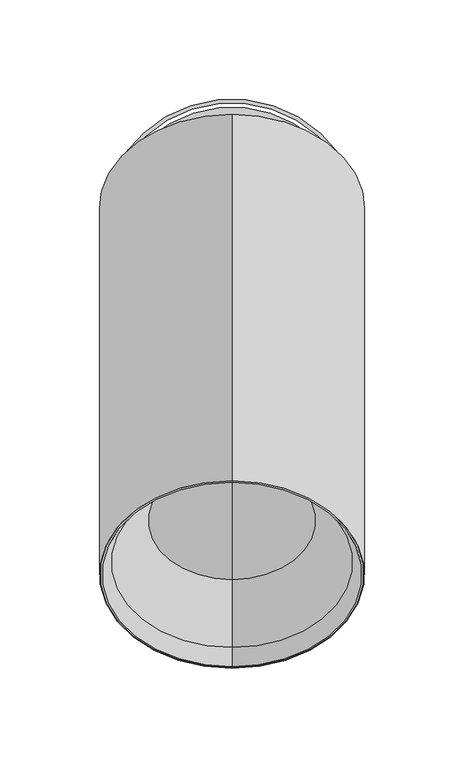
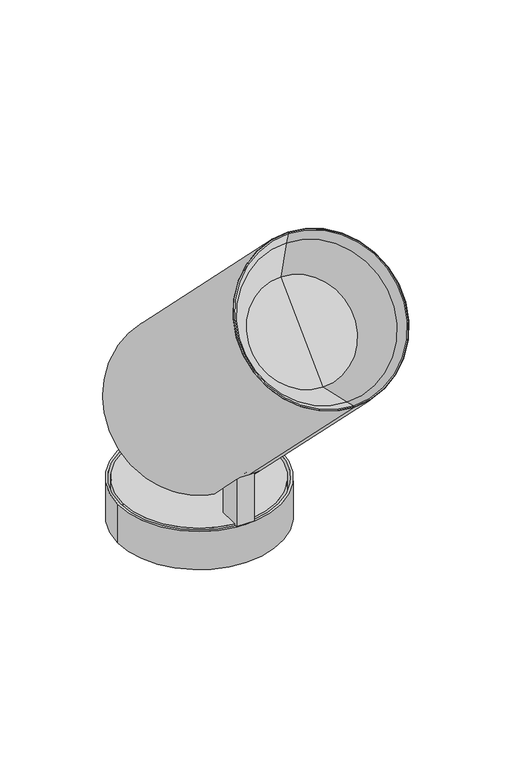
"""IFC4 building model written with IfcOpenShell, lengths in millimetres: light fixture geometry, PIPES C L : 2800 29W-830 62°."""

from ifc_helpers import new_model, si_unit, point, frame, frame_2d, origin, origin_with_axes, origin_2d, place, context, project, spatial, polyline, circle_curve, trimmed, segment, composite_curve, outline, extrude, source, transform, mapped, element, save
from ifc_brep_helpers import plane_surface, cylinder_surface, revolved_surface, advanced_brep


def light_fixture_e5662e54(model_context):
    return source(origin(), model_context, "Body", "SolidModel", [
        advanced_brep(
        [(8.0, -57.2071068, 92.8492424), (8.0, -28.9228355, 64.5649712), (8.0, -41.2985853, 52.1892214), (8.0, -33.5204107, 44.4110468), (8.0, -34.9452946, 42.9861629), (8.0, -71.0077404, 79.0486088), (-8.0, -57.2071068, 92.8492424), (-8.0, -71.0077404, 79.0486088), (-8.0, -34.9452946, 42.9861629), (-8.0, -33.5204107, 44.4110468), (-8.0, -41.2985853, 52.1892214), (-8.0, -28.9228355, 64.5649712), (0.0, -28.9228355, 64.5649712), (0.0, -71.3492424, 78.7071068), (0.0, -125.0893578, 320.5376259), (0.0, -219.1345597, 226.492424), (0.0, -208.9399527, 223.5599433), (0.0, -122.156877, 310.343019), (0.0, 58.7584053, 136.6898628), (0.0, 57.3441918, 135.2756493), (0.0, 49.5660172, 143.0538239), (0.0, 3.9576298, 97.4454365), (0.0, -114.3056476, 275.7154061), (0.0, -174.3123398, 215.7087138), (0.0, -144.3089937, 245.71206)],
        [
            (0, 1),
            (1, 2),
            (2, 3),
            (3, 4),
            (4, 5),
            (5, 0),
            (6, 7),
            (7, 8),
            (8, 9),
            (9, 10),
            (10, 11),
            (11, 6),
            (0, 6),
            (11, 12),
            (12, 1),
            (5, 13, circle_curve(frame((0.0, -24.3266415, 125.7297077), z_axis=(0.0, 0.7071067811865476, -0.7071067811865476), x_axis=(0.0, -0.7071067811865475, -0.7071067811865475)), 66.5)),
            (13, 7, circle_curve(frame((0.0, -24.3266415, 125.7297077), z_axis=(0.0, 0.7071067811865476, -0.7071067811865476), x_axis=(0.0, -0.7071067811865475, -0.7071067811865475)), 66.5)),
            (14, 15, circle_curve(frame((0.0, -172.1119587, 273.515025), z_axis=(0.0, -0.7071067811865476, 0.7071067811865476), x_axis=(0.0, -0.7071067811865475, -0.7071067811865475)), 66.5)),
            (15, 16),
            (16, 17, circle_curve(frame((0.0, -165.5484149, 266.9514811), z_axis=(0.0, 0.7071067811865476, -0.7071067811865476), x_axis=(0.0, -0.7071067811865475, -0.7071067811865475)), 61.3649013)),
            (17, 14),
            (15, 14, circle_curve(frame((0.0, -172.1119587, 273.515025), z_axis=(0.0, -0.7071067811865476, 0.7071067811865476), x_axis=(0.0, -0.7071067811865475, -0.7071067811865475)), 66.5)),
            (17, 16, circle_curve(frame((0.0, -165.5484149, 266.9514811), z_axis=(0.0, 0.7071067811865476, -0.7071067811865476), x_axis=(0.0, -0.7071067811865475, -0.7071067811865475)), 61.3649013)),
            (14, 18),
            (18, 8, circle_curve(frame((0.0, 11.7358044, 89.6672619), z_axis=(0.0, -0.7071067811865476, 0.7071067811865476), x_axis=(0.0, -0.7071067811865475, -0.7071067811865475)), 66.5)),
            (13, 15),
            (4, 18, circle_curve(frame((0.0, 11.7358044, 89.6672619), z_axis=(0.0, -0.7071067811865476, 0.7071067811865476), x_axis=(0.0, -0.7071067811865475, -0.7071067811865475)), 66.5)),
            (18, 19),
            (19, 9, circle_curve(frame((0.0, 11.7358044, 89.6672619), z_axis=(0.0, -0.7071067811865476, 0.7071067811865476), x_axis=(0.0, -0.7071067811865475, -0.7071067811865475)), 64.5)),
            (3, 19, circle_curve(frame((0.0, 11.7358044, 89.6672619), z_axis=(0.0, -0.7071067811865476, 0.7071067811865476), x_axis=(0.0, -0.7071067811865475, -0.7071067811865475)), 64.5)),
            (19, 20),
            (20, 10, circle_curve(frame((0.0, 3.9576298, 97.4454365), z_axis=(0.0, -0.7071067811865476, 0.7071067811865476), x_axis=(0.0, -0.7071067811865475, -0.7071067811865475)), 64.5)),
            (2, 20, circle_curve(frame((0.0, 3.9576298, 97.4454365), z_axis=(0.0, -0.7071067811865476, 0.7071067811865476), x_axis=(0.0, -0.7071067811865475, -0.7071067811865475)), 64.5)),
            (20, 21),
            (21, 12),
            (22, 23, circle_curve(frame((0.0, -144.3089937, 245.71206), z_axis=(0.0, -0.7071067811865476, 0.7071067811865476), x_axis=(0.0, -0.7071067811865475, -0.7071067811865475)), 42.431139)),
            (23, 24),
            (24, 22),
            (23, 22, circle_curve(frame((0.0, -144.3089937, 245.71206), z_axis=(0.0, -0.7071067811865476, 0.7071067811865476), x_axis=(0.0, -0.7071067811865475, -0.7071067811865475)), 42.431139)),
            (16, 23),
            (22, 17),
        ],
        [
            plane_surface(frame((8.0, -57.2071068, 92.8492424), z_axis=(-1.0000000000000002, 0.0, 0.0), x_axis=(0.0, -0.707106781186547, 0.7071067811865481))),
            plane_surface(frame((-8.0, -57.2071068, 92.8492424), z_axis=(1.0000000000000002, 0.0, 0.0), x_axis=(0.0, 0.707106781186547, -0.7071067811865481))),
            plane_surface(frame((-8.0, -57.2071068, 92.8492424), z_axis=(0.0, -0.7071067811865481, -0.707106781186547), x_axis=(1.0, 0.0, 0.0))),
            plane_surface(frame((-8.0, -74.8847763, 75.1715729), z_axis=(0.0, 0.7071067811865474, -0.7071067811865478), x_axis=(1.0, 0.0, 0.0))),
            revolved_surface(polyline([(0.0, -208.9399527, 223.5599433), (0.0, -219.1345597, 226.492424)]), (0.0, 15.5912199, 85.8118463), (0.0, 0.7071067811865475, -0.7071067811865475)),
            cylinder_surface(frame((0.0, 15.5912199, 85.8118463), z_axis=(0.0, 0.7071067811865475, -0.7071067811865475), x_axis=(0.0, -0.7071067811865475, -0.7071067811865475)), 66.5),
            plane_surface(frame((0.0, 11.7358044, 89.6672619), z_axis=(0.0, 0.7071067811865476, -0.7071067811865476), x_axis=(0.0, -0.7071067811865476, -0.7071067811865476))),
            revolved_surface(polyline([(0.0, -33.87258303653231, 44.05887446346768), (0.0, -41.65075763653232, 51.83704906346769)]), (0.0, 15.5912199, 85.8118463), (0.0, 0.7071067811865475, -0.7071067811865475)),
            plane_surface(frame((0.0, 3.9576298, 97.4454365), z_axis=(0.0, 0.7071067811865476, -0.7071067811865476), x_axis=(0.0, -0.7071067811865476, -0.7071067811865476))),
            plane_surface(frame((0.0, -144.3089937, 245.71206), z_axis=(0.0, -0.7071067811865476, 0.7071067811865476), x_axis=(0.0, -0.7071067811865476, -0.7071067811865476))),
            revolved_surface(polyline([(0.0, -174.3123398, 215.7087138), (0.0, -208.9399527, 223.5599433)]), (0.0, 15.5912199, 85.8118463), (0.0, 0.7071067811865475, -0.7071067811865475)),
        ],
        [
            (0, [[1, 2, 3, 4, 5, 6]]),
            (1, [[7, 8, 9, 10, 11, 12]]),
            (2, [[13, -12, 14, 15, -1]]),
            (3, [[-13, -6, 16, 17, -7]]),
            (4, [[18, 19, 20, 21]]),
            (4, [[-19, 22, -21, 23]]),
            (5, [[-18, 24, 25, -8, -17, 26]]),
            (5, [[-22, -26, -16, -5, 27, -24]]),
            (6, [[28, 29, -9, -25]]),
            (6, [[-28, -27, -4, 30]]),
            (7, [[31, 32, -10, -29]]),
            (7, [[-31, -30, -3, 33]]),
            (8, [[34, 35, -14, -11, -32]]),
            (8, [[-34, -33, -2, -15, -35]]),
            (9, [[36, 37, 38]]),
            (9, [[-37, 39, -38]]),
            (10, [[-20, 40, -36, 41]]),
            (10, [[-23, -41, -39, -40]]),
        ],
    ),
        advanced_brep(
        [(8.0, -22.5588745, 58.2010101), (8.0, -21.1446609, 56.7867966), (8.0, -32.0903035, 45.841154), (8.0, -33.5045171, 47.2553676), (-8.0, -21.1446609, 56.7867966), (-8.0, -22.5588745, 58.2010101), (-8.0, -33.5045171, 47.2553676), (-8.0, -32.0903035, 45.841154), (0.0, -22.5588745, 58.2010101), (0.0, -21.1446609, 56.7867966), (0.0, 10.3215908, 91.0814755), (0.0, 54.5112698, 135.2711545), (0.0, 55.9254834, 133.8569409), (0.0, 11.7358044, 89.6672619)],
        [
            (0, 1),
            (1, 2),
            (2, 3),
            (3, 0),
            (4, 5),
            (5, 6),
            (6, 7),
            (7, 4),
            (0, 8),
            (8, 5),
            (4, 9),
            (9, 1),
            (10, 11),
            (11, 6, circle_curve(frame((0.0, 10.3215908, 91.0814755), z_axis=(0.0, -0.7071067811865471, 0.7071067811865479), x_axis=(0.0, -0.7071067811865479, -0.7071067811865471)), 62.4936434)),
            (8, 10),
            (3, 11, circle_curve(frame((0.0, 10.3215908, 91.0814755), z_axis=(0.0, -0.7071067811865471, 0.7071067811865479), x_axis=(0.0, -0.7071067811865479, -0.7071067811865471)), 62.4936434)),
            (11, 12),
            (12, 7, circle_curve(frame((0.0, 11.7358044, 89.6672619), z_axis=(0.0, -0.7071067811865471, 0.7071067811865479), x_axis=(0.0, -0.7071067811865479, -0.7071067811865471)), 62.4936434)),
            (2, 12, circle_curve(frame((0.0, 11.7358044, 89.6672619), z_axis=(0.0, -0.7071067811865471, 0.7071067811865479), x_axis=(0.0, -0.7071067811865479, -0.7071067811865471)), 62.4936434)),
            (12, 13),
            (13, 9),
        ],
        [
            plane_surface(frame((8.0, -57.2071068, 92.8492424), z_axis=(-1.0000000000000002, 0.0, 0.0), x_axis=(0.0, -0.707106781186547, 0.7071067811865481))),
            plane_surface(frame((-8.0, -57.2071068, 92.8492424), z_axis=(1.0000000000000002, 0.0, 0.0), x_axis=(0.0, 0.707106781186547, -0.7071067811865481))),
            plane_surface(frame((-8.0, -57.2071068, 92.8492424), z_axis=(0.0, -0.7071067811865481, -0.707106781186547), x_axis=(1.0, 0.0, 0.0))),
            plane_surface(frame((0.0, 10.3215908, 91.0814755), z_axis=(0.0, -0.7071067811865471, 0.7071067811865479), x_axis=(0.0, -0.7071067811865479, -0.7071067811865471))),
            cylinder_surface(frame((0.0, 15.5912199, 85.8118463), z_axis=(0.0, 0.7071067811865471, -0.7071067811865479), x_axis=(0.0, -0.7071067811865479, -0.7071067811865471)), 62.4936434),
            plane_surface(frame((0.0, 11.7358044, 89.6672619), z_axis=(0.0, 0.7071067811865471, -0.7071067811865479), x_axis=(0.0, -0.7071067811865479, -0.7071067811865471))),
        ],
        [
            (0, [[1, 2, 3, 4]]),
            (1, [[5, 6, 7, 8]]),
            (2, [[-1, 9, 10, -5, 11, 12]]),
            (3, [[13, 14, -6, -10, 15]]),
            (3, [[-13, -15, -9, -4, 16]]),
            (4, [[17, 18, -7, -14]]),
            (4, [[-17, -16, -3, 19]]),
            (5, [[20, 21, -11, -8, -18]]),
            (5, [[-20, -19, -2, -12, -21]]),
        ],
    ),
        advanced_brep(
        [(0.0, -125.0893578, 320.5376259), (0.0, -219.1345597, 226.492424), (0.0, -218.3264604, 227.3005233), (0.0, -125.8974571, 319.7295267), (0.0, -115.4028959, 276.0323713), (0.0, -174.629305, 216.8059622), (0.0, -145.0161005, 246.4191668), (0.0, -123.125806, 310.0940352), (0.0, -208.6909689, 224.5288722), (0.0, -122.156877, 310.343019), (0.0, -208.9399527, 223.5599433), (0.0, -114.3056476, 275.7154061), (0.0, -174.3123398, 215.7087138), (0.0, -144.3089937, 245.71206)],
        [
            (0, 1, circle_curve(frame((0.0, -172.1119587, 273.515025), z_axis=(0.0, -0.7071067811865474, 0.7071067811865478), x_axis=(0.0, -0.7071067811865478, -0.7071067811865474)), 66.5)),
            (1, 2),
            (2, 3, circle_curve(frame((0.0, -172.1119587, 273.515025), z_axis=(0.0, 0.7071067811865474, -0.7071067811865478), x_axis=(0.0, -0.7071067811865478, -0.7071067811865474)), 65.357175)),
            (3, 0),
            (1, 0, circle_curve(frame((0.0, -172.1119587, 273.515025), z_axis=(0.0, -0.7071067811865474, 0.7071067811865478), x_axis=(0.0, -0.7071067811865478, -0.7071067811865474)), 66.5)),
            (3, 2, circle_curve(frame((0.0, -172.1119587, 273.515025), z_axis=(0.0, 0.7071067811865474, -0.7071067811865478), x_axis=(0.0, -0.7071067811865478, -0.7071067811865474)), 65.357175)),
            (4, 5, circle_curve(frame((0.0, -145.0161005, 246.4191668), z_axis=(0.0, -0.7071067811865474, 0.7071067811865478), x_axis=(0.0, -0.7071067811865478, -0.7071067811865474)), 41.8793955)),
            (5, 6),
            (6, 4),
            (5, 4, circle_curve(frame((0.0, -145.0161005, 246.4191668), z_axis=(0.0, -0.7071067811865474, 0.7071067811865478), x_axis=(0.0, -0.7071067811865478, -0.7071067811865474)), 41.8793955)),
            (7, 8, circle_curve(frame((0.0, -165.9083874, 267.3114537), z_axis=(0.0, -0.7071067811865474, 0.7071067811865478), x_axis=(0.0, -0.7071067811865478, -0.7071067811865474)), 60.5037069)),
            (8, 5),
            (4, 7),
            (8, 7, circle_curve(frame((0.0, -165.9083874, 267.3114537), z_axis=(0.0, -0.7071067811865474, 0.7071067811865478), x_axis=(0.0, -0.7071067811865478, -0.7071067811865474)), 60.5037069)),
            (9, 10, circle_curve(frame((0.0, -165.5484149, 266.9514811), z_axis=(0.0, -0.7071067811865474, 0.7071067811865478), x_axis=(0.0, -0.7071067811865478, -0.7071067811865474)), 61.3649013)),
            (10, 1),
            (0, 9),
            (10, 9, circle_curve(frame((0.0, -165.5484149, 266.9514811), z_axis=(0.0, -0.7071067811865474, 0.7071067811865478), x_axis=(0.0, -0.7071067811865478, -0.7071067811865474)), 61.3649013)),
            (11, 12, circle_curve(frame((0.0, -144.3089937, 245.71206), z_axis=(0.0, -0.7071067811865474, 0.7071067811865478), x_axis=(0.0, -0.7071067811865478, -0.7071067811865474)), 42.431139)),
            (12, 10),
            (9, 11),
            (12, 11, circle_curve(frame((0.0, -144.3089937, 245.71206), z_axis=(0.0, -0.7071067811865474, 0.7071067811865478), x_axis=(0.0, -0.7071067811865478, -0.7071067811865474)), 42.431139)),
            (13, 12),
            (11, 13),
            (2, 8),
            (7, 3),
        ],
        [
            plane_surface(frame((0.0, -172.1119587, 273.515025), z_axis=(0.0, -0.7071067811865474, 0.7071067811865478), x_axis=(0.0, -0.7071067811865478, -0.7071067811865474))),
            plane_surface(frame((0.0, -145.0161005, 246.4191668), z_axis=(0.0, -0.7071067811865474, 0.7071067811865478), x_axis=(0.0, -0.7071067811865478, -0.7071067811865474))),
            revolved_surface(polyline([(0.0, -174.629305, 216.8059622), (0.0, -208.6909689, 224.5288722)]), (0.0, 15.5912199, 85.8118463), (0.0, 0.7071067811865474, -0.7071067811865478)),
            revolved_surface(polyline([(0.0, -219.1345597, 226.492424), (0.0, -208.9399527, 223.5599433)]), (0.0, 15.5912199, 85.8118463), (0.0, 0.7071067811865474, -0.7071067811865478)),
            revolved_surface(polyline([(0.0, -208.9399527, 223.5599433), (0.0, -174.3123398, 215.7087138)]), (0.0, 15.5912199, 85.8118463), (0.0, 0.7071067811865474, -0.7071067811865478)),
            plane_surface(frame((0.0, -144.3089937, 245.71206), z_axis=(0.0, 0.7071067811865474, -0.7071067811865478), x_axis=(0.0, -0.7071067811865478, -0.7071067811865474))),
            revolved_surface(polyline([(0.0, -208.6909689, 224.5288722), (0.0, -218.3264604, 227.3005233)]), (0.0, 15.5912199, 85.8118463), (0.0, 0.7071067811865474, -0.7071067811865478)),
        ],
        [
            (0, [[1, 2, 3, 4]]),
            (0, [[5, -4, 6, -2]]),
            (1, [[7, 8, 9]]),
            (1, [[10, -9, -8]]),
            (2, [[11, 12, -7, 13]]),
            (2, [[14, -13, -10, -12]]),
            (3, [[15, 16, -1, 17]]),
            (3, [[18, -17, -5, -16]]),
            (4, [[19, 20, -15, 21]]),
            (4, [[22, -21, -18, -20]]),
            (5, [[23, -19, 24]]),
            (5, [[-24, -22, -23]]),
            (6, [[-3, 25, -11, 26]]),
            (6, [[-6, -26, -14, -25]]),
        ],
    ),
        extrude(outline(composite_curve([segment(trimmed(circle_curve(origin_2d(), 62.5), [point((-62.5, 0.0))], [point((62.5, 0.0))], False, "CARTESIAN"), True, "CONTINUOUS"), segment(trimmed(circle_curve(origin_2d(), 62.5), [point((62.5, 0.0))], [point((-62.5, 0.0))], False, "CARTESIAN"), True, "CONTINUOUS")], self_intersect=False)), origin_with_axes(), (0.0, 0.0, 1.0), 33.0),
        extrude(outline(composite_curve([segment(polyline([(-46.5074467, 79.5474065), (-46.5074467, 33.0), (-65.5, 33.0), (-65.5, 86.7928568), (-63.0, 86.7928568), (-63.0, 89.0), (-53.8622808, 87.7157773)]), True, "CONTINUOUS"), segment(trimmed(circle_curve(frame_2d((-55.0522063, 79.2490169)), 8.5499681), [point((-53.8622808, 87.7157773))], [point((-46.5074467, 79.5474065))], False, "CARTESIAN"), True, "CONTINUOUS")], self_intersect=False)), frame((-7.0, 0.0, 0.0), z_axis=(1.0, 0.0, 0.0), x_axis=(0.0, 1.0, 0.0)), (0.0, 0.0, 1.0), 14.0),
        extrude(outline(composite_curve([segment(trimmed(circle_curve(origin_2d(), 66.5), [point((-66.5, 0.0))], [point((66.5, 0.0))], False, "CARTESIAN"), True, "CONTINUOUS"), segment(trimmed(circle_curve(origin_2d(), 66.5), [point((66.5, 0.0))], [point((-66.5, 0.0))], False, "CARTESIAN"), True, "CONTINUOUS")], self_intersect=False), holes=[composite_curve([segment(trimmed(circle_curve(origin_2d(), 64.5), [point((-64.5, 0.0))], [point((64.5, 0.0))], True, "CARTESIAN"), True, "CONTINUOUS"), segment(trimmed(circle_curve(origin_2d(), 64.5), [point((64.5, 0.0))], [point((-64.5, 0.0))], True, "CARTESIAN"), True, "CONTINUOUS")], self_intersect=False)]), origin_with_axes(), (0.0, 0.0, 1.0), 33.0),
    ])


if __name__ == "__main__":
    model = new_model("IFC4")
    model_context = context("Model", 3, world=origin())
    ifc_project = project(units=[si_unit("LENGTHUNIT", "METRE", prefix="MILLI")], contexts=[model_context])
    site = spatial("IfcSite", under=ifc_project)
    building = spatial("IfcBuilding", under=site)
    placement = place(None, origin())
    light_fixture_shape = light_fixture_e5662e54(model_context)
    element("IfcLightFixture", 1, ObjectType="PIPES C L : 2800 29W-830 62°", at=placement, inside=building, context=model_context, shape_type="MappedRepresentation", body=[
        mapped(light_fixture_shape, transform((0.0, 0.0, 0.0), x_axis=(1.0, 0.0, 0.0), y_axis=(0.0, 1.0, 0.0), z_axis=(0.0, 0.0, 1.0))),
    ])
    save(model, "model.ifc")
